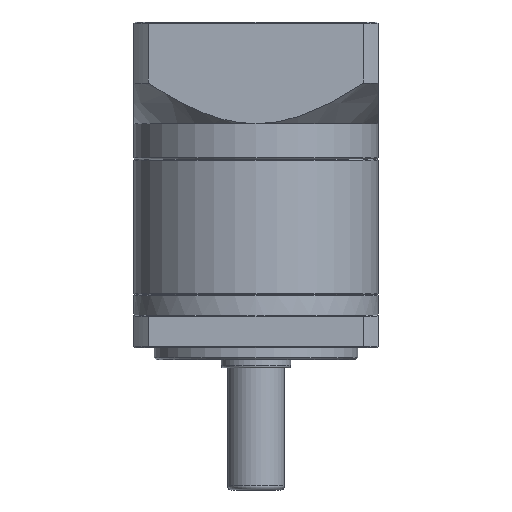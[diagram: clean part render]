
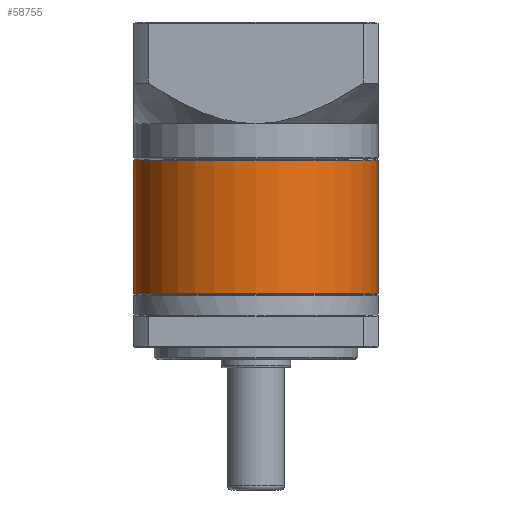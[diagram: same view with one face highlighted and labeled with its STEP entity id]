
A CAD part, front view. The second image highlights one B-rep face of the part: STEP entity #58755.
In plain terms, the highlighted cylindrical face has radius 30 mm (diameter 60 mm), a partial arc.
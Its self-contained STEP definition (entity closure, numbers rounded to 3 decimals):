
#144 = VERTEX_POINT ( 'NONE', #48650 ) ;
#5046 = CARTESIAN_POINT ( 'NONE',  ( -32.968, 26.169, -40.492 ) ) ;
#5282 = DIRECTION ( 'NONE',  ( 0., 0., -1. ) ) ;
#21021 = EDGE_CURVE ( 'NONE', #23002, #70171, #23824, .T. ) ;
#23002 = VERTEX_POINT ( 'NONE', #38528 ) ;
#23824 = LINE ( 'NONE', #94956, #83781 ) ;
#26095 = ORIENTED_EDGE ( 'NONE', *, *, #21021, .F. ) ;
#31061 = ORIENTED_EDGE ( 'NONE', *, *, #42961, .T. ) ;
#36079 = DIRECTION ( 'NONE',  ( 1., 0., 0. ) ) ;
#37632 = CYLINDRICAL_SURFACE ( 'NONE', #47804, 30. ) ;
#38528 = CARTESIAN_POINT ( 'NONE',  ( -2.968, 26.169, -40.492 ) ) ;
#42379 = VERTEX_POINT ( 'NONE', #72758 ) ;
#42961 = EDGE_CURVE ( 'NONE', #42379, #70171, #49806, .T. ) ;
#43666 = AXIS2_PLACEMENT_3D ( 'NONE', #5046, #51473, #36079 ) ;
#45420 = CARTESIAN_POINT ( 'NONE',  ( -62.968, 26.169, -40.242 ) ) ;
#47497 = CARTESIAN_POINT ( 'NONE',  ( -32.968, 26.169, -73.292 ) ) ;
#47804 = AXIS2_PLACEMENT_3D ( 'NONE', #66891, #52250, #60250 ) ;
#48650 = CARTESIAN_POINT ( 'NONE',  ( -62.968, 26.169, -40.492 ) ) ;
#49806 = CIRCLE ( 'NONE', #52374, 30. ) ;
#51379 = ORIENTED_EDGE ( 'NONE', *, *, #100764, .T. ) ;
#51473 = DIRECTION ( 'NONE',  ( 0., 0., -1. ) ) ;
#52250 = DIRECTION ( 'NONE',  ( 0., 0., -1. ) ) ;
#52374 = AXIS2_PLACEMENT_3D ( 'NONE', #47497, #78879, #87289 ) ;
#57741 = EDGE_CURVE ( 'NONE', #23002, #144, #82907, .T. ) ;
#58755 = ADVANCED_FACE ( 'NONE', ( #61352 ), #37632, .T. ) ;
#60250 = DIRECTION ( 'NONE',  ( -1., 0., 0. ) ) ;
#61352 = FACE_OUTER_BOUND ( 'NONE', #96481, .T. ) ;
#66891 = CARTESIAN_POINT ( 'NONE',  ( -32.968, 26.169, -40.242 ) ) ;
#70171 = VERTEX_POINT ( 'NONE', #96758 ) ;
#71127 = DIRECTION ( 'NONE',  ( 0., 0., -1. ) ) ;
#72758 = CARTESIAN_POINT ( 'NONE',  ( -62.968, 26.169, -73.292 ) ) ;
#78879 = DIRECTION ( 'NONE',  ( 0., 0., 1. ) ) ;
#82907 = CIRCLE ( 'NONE', #43666, 30. ) ;
#83781 = VECTOR ( 'NONE', #71127, 1000. ) ;
#87289 = DIRECTION ( 'NONE',  ( 1., 0., 0. ) ) ;
#91234 = LINE ( 'NONE', #45420, #96270 ) ;
#94956 = CARTESIAN_POINT ( 'NONE',  ( -2.968, 26.169, -40.242 ) ) ;
#96270 = VECTOR ( 'NONE', #5282, 1000. ) ;
#96481 = EDGE_LOOP ( 'NONE', ( #26095, #98061, #51379, #31061 ) ) ;
#96758 = CARTESIAN_POINT ( 'NONE',  ( -2.968, 26.169, -73.292 ) ) ;
#98061 = ORIENTED_EDGE ( 'NONE', *, *, #57741, .T. ) ;
#100764 = EDGE_CURVE ( 'NONE', #144, #42379, #91234, .T. ) ;
